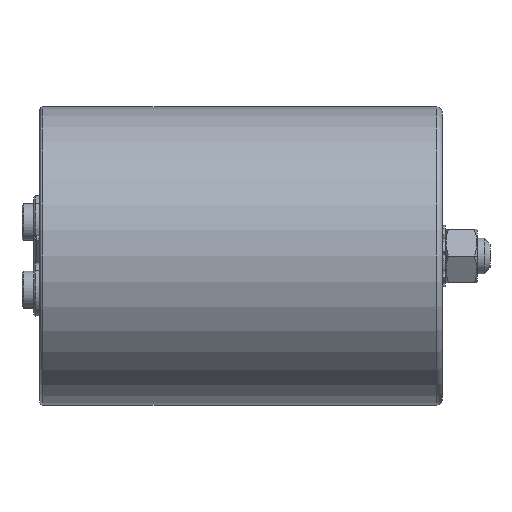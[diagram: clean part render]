
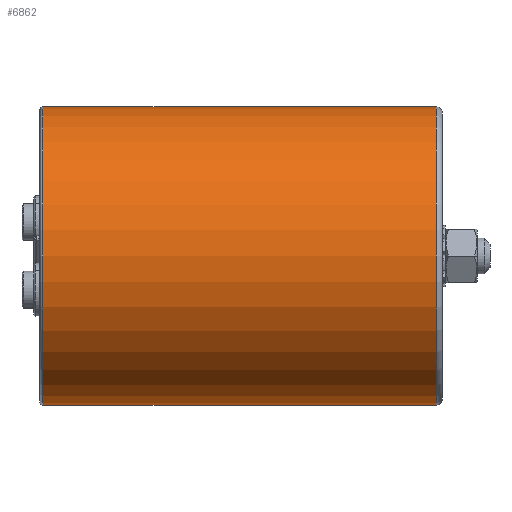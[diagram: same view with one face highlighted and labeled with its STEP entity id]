
A CAD part, left-side view. The second image highlights one B-rep face of the part: STEP entity #6862.
In plain terms, the highlighted cylindrical face has radius 50 mm (diameter 100 mm), a partial arc.
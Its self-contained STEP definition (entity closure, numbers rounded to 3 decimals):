
#58 = EDGE_CURVE ( 'NONE', #4634, #4302, #6281, .T. ) ;
#64 = ORIENTED_EDGE ( 'NONE', *, *, #58, .T. ) ;
#73 = EDGE_CURVE ( 'NONE', #4302, #7808, #867, .T. ) ;
#93 = CARTESIAN_POINT ( 'NONE',  ( 0., -1., 50. ) ) ;
#106 = CARTESIAN_POINT ( 'NONE',  ( 0., -10., 0. ) ) ;
#167 = ORIENTED_EDGE ( 'NONE', *, *, #73, .T. ) ;
#867 = LINE ( 'NONE', #2720, #1162 ) ;
#930 = EDGE_LOOP ( 'NONE', ( #64, #167, #6376, #6473 ) ) ;
#1162 = VECTOR ( 'NONE', #6492, 1000. ) ;
#1687 = CARTESIAN_POINT ( 'NONE',  ( 0., -1., -50. ) ) ;
#2720 = CARTESIAN_POINT ( 'NONE',  ( 0., -10., 50. ) ) ;
#2940 = AXIS2_PLACEMENT_3D ( 'NONE', #5300, #7856, #6517 ) ;
#3192 = DIRECTION ( 'NONE',  ( 0., 0., -1. ) ) ;
#3209 = DIRECTION ( 'NONE',  ( 0., 1., 0. ) ) ;
#3221 = CIRCLE ( 'NONE', #6695, 50. ) ;
#3548 = CYLINDRICAL_SURFACE ( 'NONE', #7730, 50. ) ;
#3558 = CARTESIAN_POINT ( 'NONE',  ( 0., -1., 0. ) ) ;
#3666 = EDGE_CURVE ( 'NONE', #7808, #4804, #3221, .T. ) ;
#4220 = CARTESIAN_POINT ( 'NONE',  ( 0., -133., 50. ) ) ;
#4302 = VERTEX_POINT ( 'NONE', #4220 ) ;
#4393 = DIRECTION ( 'NONE',  ( 0., 1., 0. ) ) ;
#4594 = EDGE_CURVE ( 'NONE', #4634, #4804, #7920, .T. ) ;
#4634 = VERTEX_POINT ( 'NONE', #5873 ) ;
#4804 = VERTEX_POINT ( 'NONE', #1687 ) ;
#5233 = FACE_OUTER_BOUND ( 'NONE', #930, .T. ) ;
#5300 = CARTESIAN_POINT ( 'NONE',  ( 0., -133., 0. ) ) ;
#5873 = CARTESIAN_POINT ( 'NONE',  ( 0., -133., -50. ) ) ;
#6265 = VECTOR ( 'NONE', #3209, 1000. ) ;
#6281 = CIRCLE ( 'NONE', #2940, 50. ) ;
#6376 = ORIENTED_EDGE ( 'NONE', *, *, #3666, .T. ) ;
#6473 = ORIENTED_EDGE ( 'NONE', *, *, #4594, .F. ) ;
#6492 = DIRECTION ( 'NONE',  ( 0., 1., 0. ) ) ;
#6517 = DIRECTION ( 'NONE',  ( 0., 0., -1. ) ) ;
#6695 = AXIS2_PLACEMENT_3D ( 'NONE', #3558, #7886, #7269 ) ;
#6862 = ADVANCED_FACE ( 'NONE', ( #5233 ), #3548, .T. ) ;
#7269 = DIRECTION ( 'NONE',  ( 0., 0., 1. ) ) ;
#7589 = CARTESIAN_POINT ( 'NONE',  ( 0., -10., -50. ) ) ;
#7730 = AXIS2_PLACEMENT_3D ( 'NONE', #106, #4393, #3192 ) ;
#7808 = VERTEX_POINT ( 'NONE', #93 ) ;
#7856 = DIRECTION ( 'NONE',  ( 0., 1., 0. ) ) ;
#7886 = DIRECTION ( 'NONE',  ( 0., -1., 0. ) ) ;
#7920 = LINE ( 'NONE', #7589, #6265 ) ;
